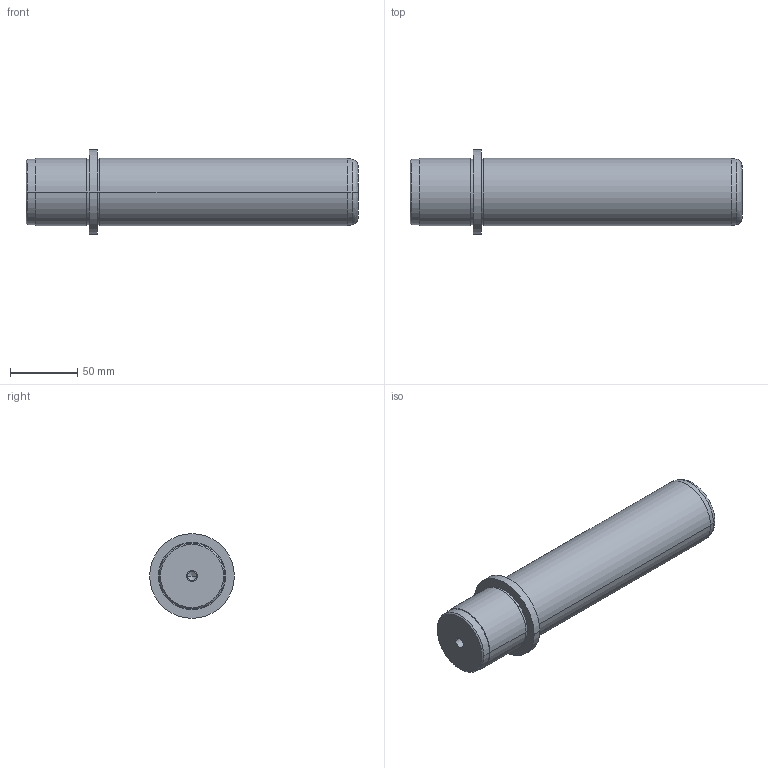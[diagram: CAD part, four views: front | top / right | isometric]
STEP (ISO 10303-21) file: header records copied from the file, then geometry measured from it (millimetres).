
FILE_DESCRIPTION( ( 'STEP AP203' ), '1' );
FILE_NAME( 'D:/Delta 3 D/D00/D00 - 50x200x47.step', '2003-01-02T07:21:59', ( ' ' ), ( ' ' ), 'XStep 1.0', ' ', ' ' );
FILE_SCHEMA( ( 'CONFIG_CONTROL_DESIGN' ) );
Length unit declared in the file: metre
Products named in the file (1): 1
Bounding box: 247 x 63 x 63 mm (x, y, z)
Volume: 488059.7 mm3; surface area: 46203.2 mm2
Topology: 1 solids, 1 shells, 39 faces, 79 edges, 48 vertices
Faces by surface type: revolution 28, bspline 11
Entity records: 1137 total; most frequent: CARTESIAN_POINT 277, DIRECTION 154, ORIENTED_EDGE 152, EDGE_CURVE 76, AXIS2_PLACEMENT_3D 49, EDGE_LOOP 48, VERTEX_POINT 48, CIRCLE 48
